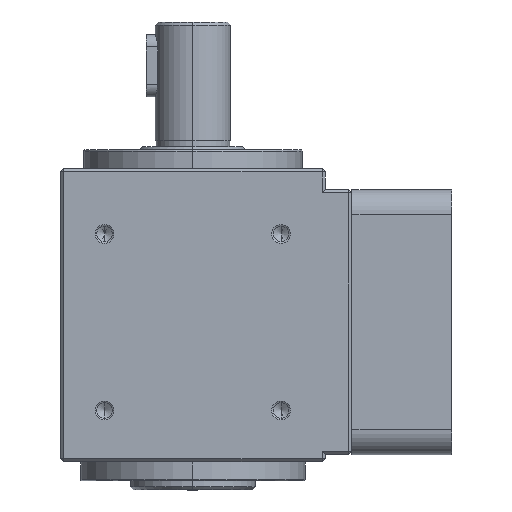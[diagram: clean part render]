
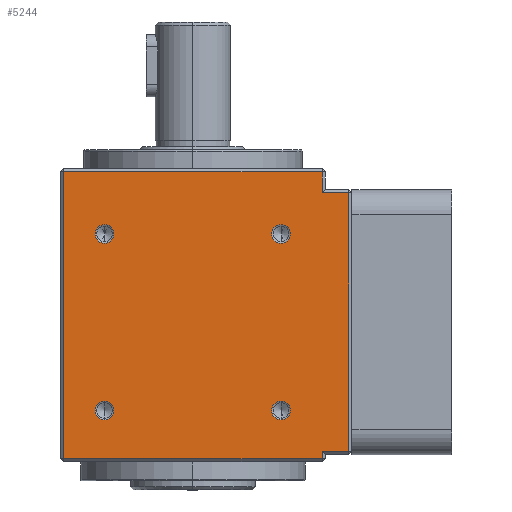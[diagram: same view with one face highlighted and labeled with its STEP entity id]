
A CAD part, left-side view. The second image highlights one B-rep face of the part: STEP entity #5244.
In plain terms, the highlighted planar face has unit normal (-1, 0, 0) as drawn and (1, 0, 0) by its records, which use the part's own axes.
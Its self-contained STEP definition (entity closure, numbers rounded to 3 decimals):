
#47 = FACE_BOUND ( 'NONE', #14446, .T. ) ;
#616 = VECTOR ( 'NONE', #28295, 1000. ) ;
#943 = CARTESIAN_POINT ( 'NONE',  ( 21.25, -20.75, 53. ) ) ;
#984 = VERTEX_POINT ( 'NONE', #19583 ) ;
#1198 = AXIS2_PLACEMENT_3D ( 'NONE', #14421, #2143, #19353 ) ;
#1278 = EDGE_CURVE ( 'NONE', #16136, #984, #27857, .T. ) ;
#1336 = VECTOR ( 'NONE', #25030, 1000. ) ;
#1499 = CARTESIAN_POINT ( 'NONE',  ( 21.25, -25., 6.85 ) ) ;
#1537 = CIRCLE ( 'NONE', #1198, 1.5 ) ;
#1972 = CARTESIAN_POINT ( 'NONE',  ( 21.25, -14.142, 41.742 ) ) ;
#2021 = ORIENTED_EDGE ( 'NONE', *, *, #20999, .T. ) ;
#2143 = DIRECTION ( 'NONE',  ( 1., 0., 0. ) ) ;
#2174 = VERTEX_POINT ( 'NONE', #14917 ) ;
#2483 = EDGE_CURVE ( 'NONE', #13292, #16136, #15466, .T. ) ;
#2979 = CARTESIAN_POINT ( 'NONE',  ( 21.25, -20.75, 6.85 ) ) ;
#3153 = FACE_BOUND ( 'NONE', #20724, .T. ) ;
#3177 = AXIS2_PLACEMENT_3D ( 'NONE', #23107, #25481, #27838 ) ;
#3212 = DIRECTION ( 'NONE',  ( 0., 0., 1. ) ) ;
#3237 = EDGE_CURVE ( 'NONE', #30743, #30286, #17756, .T. ) ;
#3394 = ORIENTED_EDGE ( 'NONE', *, *, #2483, .T. ) ;
#3758 = EDGE_CURVE ( 'NONE', #2174, #13446, #16555, .T. ) ;
#3814 = DIRECTION ( 'NONE',  ( 1., 0., 0. ) ) ;
#3900 = EDGE_CURVE ( 'NONE', #25668, #13292, #25060, .T. ) ;
#3918 = DIRECTION ( 'NONE',  ( 0., 0., -1. ) ) ;
#4264 = CIRCLE ( 'NONE', #16307, 1.5 ) ;
#4468 = CARTESIAN_POINT ( 'NONE',  ( 21.25, 14.142, 40.242 ) ) ;
#4636 = DIRECTION ( 'NONE',  ( 1., 0., 0. ) ) ;
#4815 = VECTOR ( 'NONE', #15410, 1000. ) ;
#5244 = ADVANCED_FACE ( 'NONE', ( #25405, #3153, #14240, #47, #7341 ), #15111, .F. ) ;
#5970 = DIRECTION ( 'NONE',  ( 0., 0., -1. ) ) ;
#6686 = ORIENTED_EDGE ( 'NONE', *, *, #3758, .F. ) ;
#6824 = EDGE_CURVE ( 'NONE', #6865, #24831, #1537, .T. ) ;
#6865 = VERTEX_POINT ( 'NONE', #28853 ) ;
#6881 = ORIENTED_EDGE ( 'NONE', *, *, #6824, .F. ) ;
#7341 = FACE_BOUND ( 'NONE', #24327, .T. ) ;
#7513 = CARTESIAN_POINT ( 'NONE',  ( 21.25, 14.142, 43.242 ) ) ;
#7568 = CIRCLE ( 'NONE', #3177, 1.5 ) ;
#7590 = CIRCLE ( 'NONE', #21346, 1.5 ) ;
#7630 = VERTEX_POINT ( 'NONE', #9698 ) ;
#7837 = EDGE_LOOP ( 'NONE', ( #2021, #14244, #14407, #9028, #3394, #19234, #26989, #29188 ) ) ;
#8593 = EDGE_CURVE ( 'NONE', #30286, #30743, #7590, .T. ) ;
#9028 = ORIENTED_EDGE ( 'NONE', *, *, #3900, .T. ) ;
#9079 = VECTOR ( 'NONE', #21230, 1000. ) ;
#9271 = VERTEX_POINT ( 'NONE', #1499 ) ;
#9389 = ORIENTED_EDGE ( 'NONE', *, *, #23750, .F. ) ;
#9412 = DIRECTION ( 'NONE',  ( 0., 1., 0. ) ) ;
#9572 = DIRECTION ( 'NONE',  ( 1., 0., 0. ) ) ;
#9698 = CARTESIAN_POINT ( 'NONE',  ( 21.25, -14.142, 14.958 ) ) ;
#10226 = DIRECTION ( 'NONE',  ( -1., 0., 0. ) ) ;
#10544 = CARTESIAN_POINT ( 'NONE',  ( 21.25, -21.25, 53. ) ) ;
#12392 = DIRECTION ( 'NONE',  ( 0., 0., -1. ) ) ;
#12517 = ORIENTED_EDGE ( 'NONE', *, *, #8593, .F. ) ;
#12866 = VECTOR ( 'NONE', #12392, 1000. ) ;
#13212 = LINE ( 'NONE', #943, #4815 ) ;
#13292 = VERTEX_POINT ( 'NONE', #21096 ) ;
#13307 = LINE ( 'NONE', #16658, #24453 ) ;
#13446 = VERTEX_POINT ( 'NONE', #13907 ) ;
#13548 = CARTESIAN_POINT ( 'NONE',  ( 21.25, -14.142, 11.958 ) ) ;
#13652 = CARTESIAN_POINT ( 'NONE',  ( 21.25, 14.142, 11.958 ) ) ;
#13907 = CARTESIAN_POINT ( 'NONE',  ( 21.25, -14.142, 43.242 ) ) ;
#14240 = FACE_BOUND ( 'NONE', #24212, .T. ) ;
#14244 = ORIENTED_EDGE ( 'NONE', *, *, #25858, .T. ) ;
#14363 = CARTESIAN_POINT ( 'NONE',  ( 21.25, 21.25, 3.5 ) ) ;
#14407 = ORIENTED_EDGE ( 'NONE', *, *, #22634, .T. ) ;
#14421 = CARTESIAN_POINT ( 'NONE',  ( 21.25, 14.142, 13.458 ) ) ;
#14446 = EDGE_LOOP ( 'NONE', ( #17754, #12517 ) ) ;
#14593 = CARTESIAN_POINT ( 'NONE',  ( 21.25, 14.142, 41.742 ) ) ;
#14917 = CARTESIAN_POINT ( 'NONE',  ( 21.25, -14.142, 40.242 ) ) ;
#15111 = PLANE ( 'NONE',  #21113 ) ;
#15410 = DIRECTION ( 'NONE',  ( 0., 0., -1. ) ) ;
#15466 = LINE ( 'NONE', #17532, #28192 ) ;
#15760 = EDGE_CURVE ( 'NONE', #13446, #2174, #4264, .T. ) ;
#16136 = VERTEX_POINT ( 'NONE', #21805 ) ;
#16307 = AXIS2_PLACEMENT_3D ( 'NONE', #18051, #23027, #5970 ) ;
#16555 = CIRCLE ( 'NONE', #29753, 1.5 ) ;
#16658 = CARTESIAN_POINT ( 'NONE',  ( 21.25, -21.25, 6.85 ) ) ;
#17063 = DIRECTION ( 'NONE',  ( 0., 0., -1. ) ) ;
#17115 = AXIS2_PLACEMENT_3D ( 'NONE', #17721, #22695, #27327 ) ;
#17345 = VERTEX_POINT ( 'NONE', #20145 ) ;
#17532 = CARTESIAN_POINT ( 'NONE',  ( 21.25, 20.75, 53. ) ) ;
#17721 = CARTESIAN_POINT ( 'NONE',  ( 21.25, -14.142, 13.458 ) ) ;
#17754 = ORIENTED_EDGE ( 'NONE', *, *, #3237, .F. ) ;
#17756 = CIRCLE ( 'NONE', #26037, 1.5 ) ;
#18051 = CARTESIAN_POINT ( 'NONE',  ( 21.25, -14.142, 41.742 ) ) ;
#18485 = VECTOR ( 'NONE', #31476, 1000. ) ;
#18551 = CARTESIAN_POINT ( 'NONE',  ( 21.25, 14.142, 41.742 ) ) ;
#19234 = ORIENTED_EDGE ( 'NONE', *, *, #1278, .T. ) ;
#19256 = CARTESIAN_POINT ( 'NONE',  ( 21.25, -14.142, 13.458 ) ) ;
#19353 = DIRECTION ( 'NONE',  ( 0., 0., -1. ) ) ;
#19583 = CARTESIAN_POINT ( 'NONE',  ( 21.25, -20.75, 49.5 ) ) ;
#19649 = CARTESIAN_POINT ( 'NONE',  ( 21.25, -20.75, 53. ) ) ;
#20145 = CARTESIAN_POINT ( 'NONE',  ( 21.25, -20.75, 48.35 ) ) ;
#20724 = EDGE_LOOP ( 'NONE', ( #29416, #9389 ) ) ;
#20969 = CARTESIAN_POINT ( 'NONE',  ( 21.25, -25.5, 48.35 ) ) ;
#20999 = EDGE_CURVE ( 'NONE', #25807, #9271, #22125, .T. ) ;
#21096 = CARTESIAN_POINT ( 'NONE',  ( 21.25, 20.75, 3.5 ) ) ;
#21113 = AXIS2_PLACEMENT_3D ( 'NONE', #10544, #10226, #22556 ) ;
#21230 = DIRECTION ( 'NONE',  ( 0., 0., -1. ) ) ;
#21346 = AXIS2_PLACEMENT_3D ( 'NONE', #18551, #3814, #3918 ) ;
#21805 = CARTESIAN_POINT ( 'NONE',  ( 21.25, 20.75, 49.5 ) ) ;
#22125 = LINE ( 'NONE', #28665, #9079 ) ;
#22476 = CIRCLE ( 'NONE', #17115, 1.5 ) ;
#22556 = DIRECTION ( 'NONE',  ( 0., 0., 1. ) ) ;
#22634 = EDGE_CURVE ( 'NONE', #29208, #25668, #13212, .T. ) ;
#22661 = AXIS2_PLACEMENT_3D ( 'NONE', #19256, #4636, #31658 ) ;
#22695 = DIRECTION ( 'NONE',  ( 1., 0., 0. ) ) ;
#23027 = DIRECTION ( 'NONE',  ( 1., 0., 0. ) ) ;
#23107 = CARTESIAN_POINT ( 'NONE',  ( 21.25, 14.142, 13.458 ) ) ;
#23750 = EDGE_CURVE ( 'NONE', #7630, #28904, #26253, .T. ) ;
#24027 = ORIENTED_EDGE ( 'NONE', *, *, #15760, .F. ) ;
#24212 = EDGE_LOOP ( 'NONE', ( #6686, #24027 ) ) ;
#24327 = EDGE_LOOP ( 'NONE', ( #30702, #6881 ) ) ;
#24453 = VECTOR ( 'NONE', #9412, 1000. ) ;
#24831 = VERTEX_POINT ( 'NONE', #13652 ) ;
#25030 = DIRECTION ( 'NONE',  ( 0., -1., 0. ) ) ;
#25060 = LINE ( 'NONE', #14363, #18485 ) ;
#25405 = FACE_OUTER_BOUND ( 'NONE', #7837, .T. ) ;
#25481 = DIRECTION ( 'NONE',  ( 1., 0., 0. ) ) ;
#25668 = VERTEX_POINT ( 'NONE', #30509 ) ;
#25692 = EDGE_CURVE ( 'NONE', #24831, #6865, #7568, .T. ) ;
#25807 = VERTEX_POINT ( 'NONE', #26491 ) ;
#25858 = EDGE_CURVE ( 'NONE', #9271, #29208, #13307, .T. ) ;
#26037 = AXIS2_PLACEMENT_3D ( 'NONE', #14593, #31819, #17063 ) ;
#26253 = CIRCLE ( 'NONE', #22661, 1.5 ) ;
#26491 = CARTESIAN_POINT ( 'NONE',  ( 21.25, -25., 48.35 ) ) ;
#26744 = DIRECTION ( 'NONE',  ( 0., 0., -1. ) ) ;
#26950 = EDGE_CURVE ( 'NONE', #17345, #25807, #29792, .T. ) ;
#26989 = ORIENTED_EDGE ( 'NONE', *, *, #27331, .T. ) ;
#27186 = CARTESIAN_POINT ( 'NONE',  ( 21.25, -21.25, 49.5 ) ) ;
#27327 = DIRECTION ( 'NONE',  ( 0., 0., -1. ) ) ;
#27331 = EDGE_CURVE ( 'NONE', #984, #17345, #29381, .T. ) ;
#27446 = EDGE_CURVE ( 'NONE', #28904, #7630, #22476, .T. ) ;
#27838 = DIRECTION ( 'NONE',  ( 0., 0., -1. ) ) ;
#27857 = LINE ( 'NONE', #27186, #1336 ) ;
#28192 = VECTOR ( 'NONE', #3212, 1000. ) ;
#28295 = DIRECTION ( 'NONE',  ( 0., -1., 0. ) ) ;
#28665 = CARTESIAN_POINT ( 'NONE',  ( 21.25, -25., 53. ) ) ;
#28853 = CARTESIAN_POINT ( 'NONE',  ( 21.25, 14.142, 14.958 ) ) ;
#28904 = VERTEX_POINT ( 'NONE', #13548 ) ;
#29188 = ORIENTED_EDGE ( 'NONE', *, *, #26950, .T. ) ;
#29208 = VERTEX_POINT ( 'NONE', #2979 ) ;
#29381 = LINE ( 'NONE', #19649, #12866 ) ;
#29416 = ORIENTED_EDGE ( 'NONE', *, *, #27446, .F. ) ;
#29753 = AXIS2_PLACEMENT_3D ( 'NONE', #1972, #9572, #26744 ) ;
#29792 = LINE ( 'NONE', #20969, #616 ) ;
#30286 = VERTEX_POINT ( 'NONE', #7513 ) ;
#30509 = CARTESIAN_POINT ( 'NONE',  ( 21.25, -20.75, 3.5 ) ) ;
#30702 = ORIENTED_EDGE ( 'NONE', *, *, #25692, .F. ) ;
#30743 = VERTEX_POINT ( 'NONE', #4468 ) ;
#31476 = DIRECTION ( 'NONE',  ( 0., 1., 0. ) ) ;
#31658 = DIRECTION ( 'NONE',  ( 0., 0., -1. ) ) ;
#31819 = DIRECTION ( 'NONE',  ( 1., 0., 0. ) ) ;
